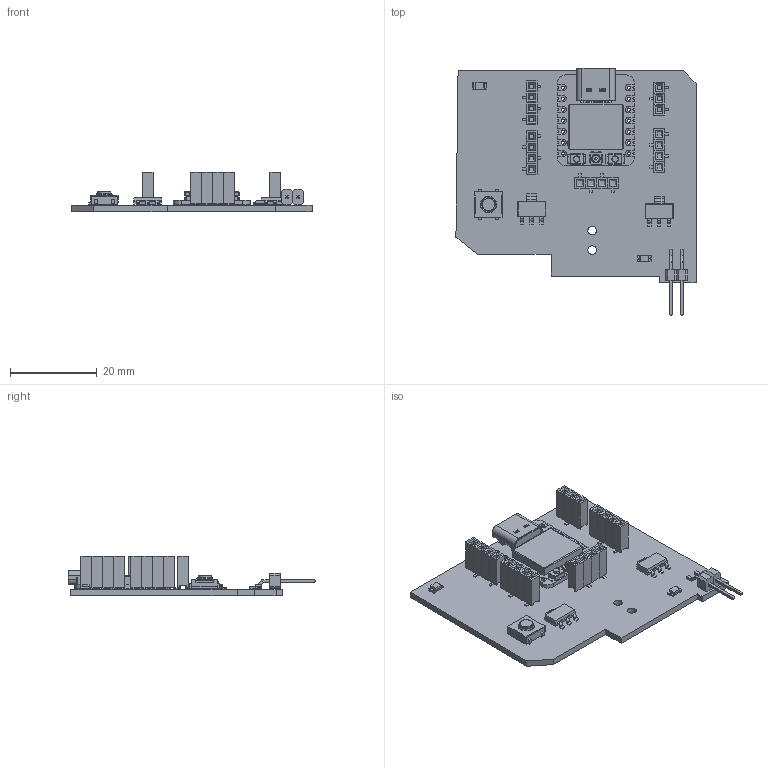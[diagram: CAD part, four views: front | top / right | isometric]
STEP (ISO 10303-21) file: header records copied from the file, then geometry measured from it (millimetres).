
FILE_DESCRIPTION(('KiCad electronic assembly'),'2;1');
FILE_NAME('XiaoBoard2.step','2025-06-10T17:33:46',('Pcbnew'),('Kicad'), 'Open CASCADE STEP processor 7.8','KiCad to STEP converter','Unknown' );
FILE_SCHEMA(('AUTOMOTIVE_DESIGN { 1 0 10303 214 1 1 1 1 }'));
Length unit declared in the file: millimetre
Products named in the file (61): XiaoBoard2 1; PinSocket-01x04_P2.54mm_Vertical_SMD; XiaoBoard2 1.1.1; XiaoBoard2 1.1.2; XiaoBoard2 1.1.3; XiaoBoard2 1.1.4; Header_SMD_01x02_P2.54mm_Horizontal_Male; XiaoBoard2 1.2.1; XiaoBoard2 1.2.2; Switch_Omron-B3SN-3112P; Base; Leads; Lead; Body002; Body003; Body004; Button; Cover; Seeed Studio XIAO-ESP32-C3; USB TYPE C PORT; USB TYPE C PORT (1); BOSS-EXTRUDE14_8_; BOSS-EXTRUDE7_4_; BOSS-EXTRUDE7_3_; BOSS-EXTRUDE14_4_; BOSS-EXTRUDE14_2_; BOSS-EXTRUDE14_11_; BOSS-EXTRUDE7_7_; BOSS-EXTRUDE14_9_; BOSS-EXTRUDE14_3_; BOSS-EXTRUDE14_7_; MIRROR2; BOSS-EXTRUDE14_5_; BOSS-EXTRUDE14_12_; BOSS-EXTRUDE7_8_; BOSS-EXTRUDE7_1_; BOSS-EXTRUDE14_10_; BOSS-EXTRUDE7_9_; BOSS-EXTRUDE14_6_; CHAMFER9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
Assembly tree (65 placements, depth 5):
  XiaoBoard2 1
    PinSocket-01x04_P2.54mm_Vertical_SMD  x4
      XiaoBoard2 1.1.1
      XiaoBoard2 1.1.2
      XiaoBoard2 1.1.3
      XiaoBoard2 1.1.4
    Header_SMD_01x02_P2.54mm_Horizontal_Male
      XiaoBoard2 1.2.1
      XiaoBoard2 1.2.2
    Switch_Omron-B3SN-3112P
      Base
      Leads
        Lead
        Body002
        Body003
        Body004
      Button
      Cover
    Seeed Studio XIAO-ESP32-C3
      USB TYPE C PORT
        USB TYPE C PORT (1)
          BOSS-EXTRUDE14_8_
          BOSS-EXTRUDE7_4_
          BOSS-EXTRUDE7_3_
          BOSS-EXTRUDE14_4_
          BOSS-EXTRUDE14_2_
          BOSS-EXTRUDE14_11_
          BOSS-EXTRUDE7_7_
          BOSS-EXTRUDE14_9_
          BOSS-EXTRUDE14_3_
          BOSS-EXTRUDE14_7_
          MIRROR2
          BOSS-EXTRUDE14_5_
          BOSS-EXTRUDE14_12_
          BOSS-EXTRUDE7_8_
          BOSS-EXTRUDE7_1_
          BOSS-EXTRUDE14_10_
          BOSS-EXTRUDE7_9_
          BOSS-EXTRUDE14_6_
          CHAMFER9
          BOSS-EXTRUDE14_1_
          BOSS-EXTRUDE7_6_
          BOSS-EXTRUDE7_2_
          CUT-EXTRUDE5
          BOSS-EXTRUDE7_5_
      U.FL Connector v1
      Button (1)  x2
      Shield
      SOLID
    SOT-223  x2
    LED_1206_3216Metric
    LED-1206
      Base
      Emmiter
      Contact_1
      Contact_2
    PinSocket-01x03_P2.54mm_Vertical_SMD
      XiaoBoard2 1.11.1
      XiaoBoard2 1.11.2
      XiaoBoard2 1.11.3
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Bounding box: 55.5 x 57.1 x 9.1 mm (x, y, z)
Volume: 5315.5 mm3; surface area: 10058.2 mm2
Topology: 88 solids, 88 shells, 1855 faces, 4612 edges, 2968 vertices
Faces by surface type: plane 1465, cylinder 318, bspline 34, torus 17, cone 10, sphere 7, revolution 4
Full cylindrical faces by diameter (mm): 0.5 x3, 0.6 x2, 0.7 x2, 0.75 x14, 0.889 x14, 1.5 x2, 1.524 x6, 1.65 x1, 1.9 x1, 2 x4, 3 x2
Entity records: 46309 total; most frequent: CARTESIAN_POINT 7669, ORIENTED_EDGE 7078, DIRECTION 7035, EDGE_CURVE 3539, LINE 2923, VECTOR 2923, VERTEX_POINT 2284, AXIS2_PLACEMENT_3D 2054
